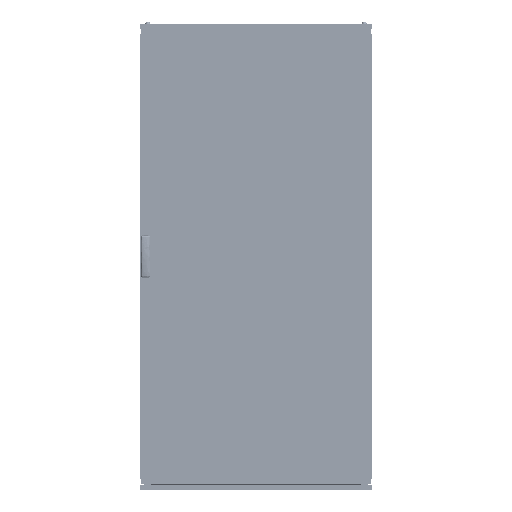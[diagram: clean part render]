
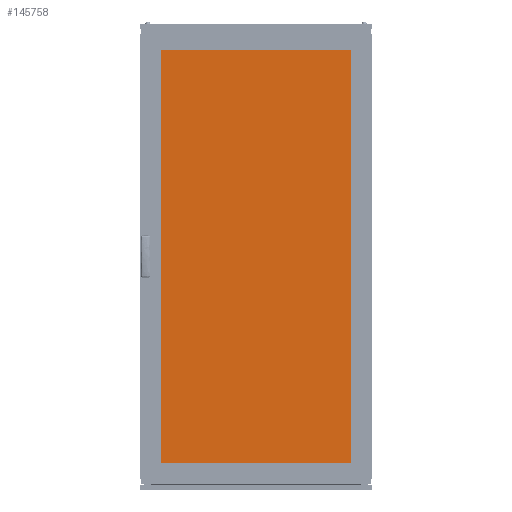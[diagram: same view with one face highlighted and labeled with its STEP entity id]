
A CAD part, top view. The second image highlights one B-rep face of the part: STEP entity #145758.
In plain terms, the highlighted planar face has unit normal (0, 0, 1).
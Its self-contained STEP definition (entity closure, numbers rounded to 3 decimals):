
#1925 = EDGE_CURVE ( 'NONE', #121370, #111177, #196103, .T. ) ;
#5605 = CARTESIAN_POINT ( 'NONE',  ( -430., -910., 5. ) ) ;
#13869 = LINE ( 'NONE', #87741, #42711 ) ;
#24223 = CARTESIAN_POINT ( 'NONE',  ( -430., 910., 5. ) ) ;
#30119 = CARTESIAN_POINT ( 'NONE',  ( -430., 910., 5. ) ) ;
#33673 = DIRECTION ( 'NONE',  ( -1., 0., 0. ) ) ;
#42711 = VECTOR ( 'NONE', #161651, 1000. ) ;
#58859 = ORIENTED_EDGE ( 'NONE', *, *, #1925, .T. ) ;
#61841 = EDGE_CURVE ( 'NONE', #145929, #190249, #119932, .T. ) ;
#63538 = ORIENTED_EDGE ( 'NONE', *, *, #61841, .T. ) ;
#85946 = CARTESIAN_POINT ( 'NONE',  ( 430., 910., 5. ) ) ;
#87741 = CARTESIAN_POINT ( 'NONE',  ( 430., -910., 5. ) ) ;
#93359 = VECTOR ( 'NONE', #93603, 1000. ) ;
#93603 = DIRECTION ( 'NONE',  ( 0., -1., 0. ) ) ;
#95282 = EDGE_CURVE ( 'NONE', #111177, #145929, #148138, .T. ) ;
#110224 = FACE_OUTER_BOUND ( 'NONE', #225705, .T. ) ;
#111177 = VERTEX_POINT ( 'NONE', #24223 ) ;
#116349 = DIRECTION ( 'NONE',  ( 1., 0., 0. ) ) ;
#119932 = LINE ( 'NONE', #190271, #146787 ) ;
#121370 = VERTEX_POINT ( 'NONE', #85946 ) ;
#145758 = ADVANCED_FACE ( 'NONE', ( #110224 ), #220529, .F. ) ;
#145804 = CARTESIAN_POINT ( 'NONE',  ( -430., -910., 5. ) ) ;
#145929 = VERTEX_POINT ( 'NONE', #5605 ) ;
#146787 = VECTOR ( 'NONE', #116349, 1000. ) ;
#148138 = LINE ( 'NONE', #145804, #93359 ) ;
#154907 = VECTOR ( 'NONE', #33673, 1000. ) ;
#161651 = DIRECTION ( 'NONE',  ( 0., 1., 0. ) ) ;
#162406 = DIRECTION ( 'NONE',  ( -1., 0., 0. ) ) ;
#163568 = CARTESIAN_POINT ( 'NONE',  ( 0., 0., 5. ) ) ;
#174798 = EDGE_CURVE ( 'NONE', #190249, #121370, #13869, .T. ) ;
#181963 = ORIENTED_EDGE ( 'NONE', *, *, #174798, .T. ) ;
#190249 = VERTEX_POINT ( 'NONE', #221452 ) ;
#190271 = CARTESIAN_POINT ( 'NONE',  ( -430., -910., 5. ) ) ;
#193328 = ORIENTED_EDGE ( 'NONE', *, *, #95282, .T. ) ;
#196103 = LINE ( 'NONE', #30119, #154907 ) ;
#200392 = AXIS2_PLACEMENT_3D ( 'NONE', #163568, #201130, #162406 ) ;
#201130 = DIRECTION ( 'NONE',  ( 0., 0., -1. ) ) ;
#220529 = PLANE ( 'NONE',  #200392 ) ;
#221452 = CARTESIAN_POINT ( 'NONE',  ( 430., -910., 5. ) ) ;
#225705 = EDGE_LOOP ( 'NONE', ( #181963, #58859, #193328, #63538 ) ) ;
